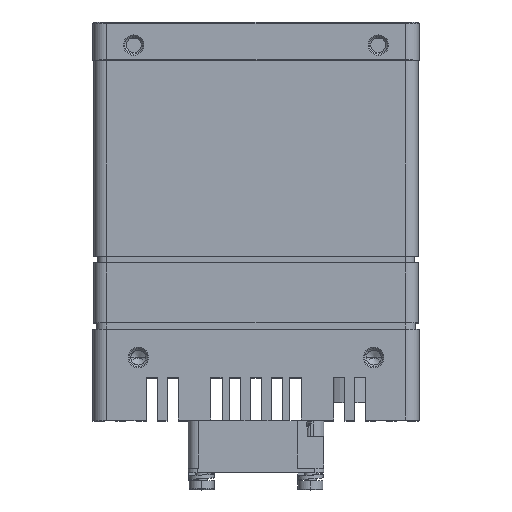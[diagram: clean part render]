
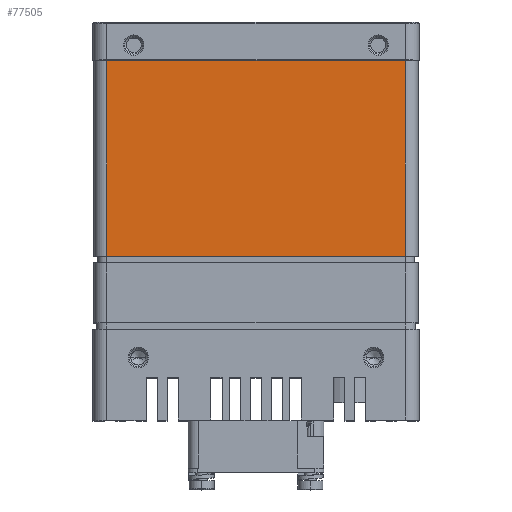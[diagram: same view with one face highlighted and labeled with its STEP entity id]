
A CAD part, top view. The second image highlights one B-rep face of the part: STEP entity #77505.
In plain terms, the highlighted planar face has unit normal (0, 0, 1).
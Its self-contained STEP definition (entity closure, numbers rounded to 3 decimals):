
#22206=DIRECTION('',(1.,0.,0.));
#22207=VECTOR('',#22206,66.);
#22208=CARTESIAN_POINT('',(-33.,-55.1,35.8));
#22209=LINE('',#22208,#22207);
#23115=DIRECTION('',(0.,-1.,0.));
#23116=VECTOR('',#23115,43.1);
#23117=CARTESIAN_POINT('',(-33.,-12.,35.8));
#23118=LINE('',#23117,#23116);
#24093=DIRECTION('',(0.,1.,0.));
#24094=VECTOR('',#24093,43.1);
#24095=CARTESIAN_POINT('',(33.,-55.1,35.8));
#24096=LINE('',#24095,#24094);
#24123=DIRECTION('',(-1.,0.,0.));
#24124=VECTOR('',#24123,66.);
#24125=CARTESIAN_POINT('',(33.,-12.,35.8));
#24126=LINE('',#24125,#24124);
#49908=CARTESIAN_POINT('',(-33.,-55.1,35.8));
#49909=VERTEX_POINT('',#49908);
#49910=CARTESIAN_POINT('',(33.,-55.1,35.8));
#49911=VERTEX_POINT('',#49910);
#50072=CARTESIAN_POINT('',(-33.,-12.,35.8));
#50073=VERTEX_POINT('',#50072);
#50074=CARTESIAN_POINT('',(33.,-12.,35.8));
#50075=VERTEX_POINT('',#50074);
#77494=CARTESIAN_POINT('',(33.,-10.,35.8));
#77495=DIRECTION('',(0.,0.,-1.));
#77496=DIRECTION('',(-1.,0.,0.));
#77497=AXIS2_PLACEMENT_3D('',#77494,#77495,#77496);
#77498=PLANE('',#77497);
#77499=ORIENTED_EDGE('',*,*,#77485,.F.);
#77500=ORIENTED_EDGE('',*,*,#77460,.F.);
#77501=ORIENTED_EDGE('',*,*,#75926,.F.);
#77502=ORIENTED_EDGE('',*,*,#76645,.F.);
#77503=EDGE_LOOP('',(#77499,#77500,#77501,#77502));
#77504=FACE_OUTER_BOUND('',#77503,.F.);
#77505=ADVANCED_FACE('',(#77504),#77498,.F.);
#75926=EDGE_CURVE('',#49909,#49911,#22209,.T.);
#76645=EDGE_CURVE('',#50073,#49909,#23118,.T.);
#77460=EDGE_CURVE('',#49911,#50075,#24096,.T.);
#77485=EDGE_CURVE('',#50075,#50073,#24126,.T.);
